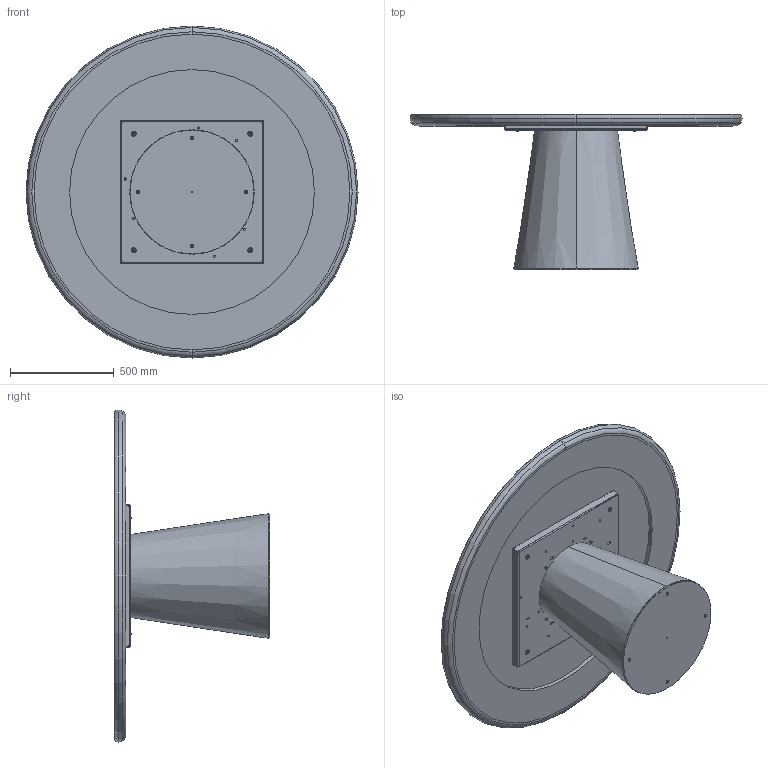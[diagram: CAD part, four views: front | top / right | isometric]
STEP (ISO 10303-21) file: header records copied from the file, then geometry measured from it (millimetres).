
FILE_DESCRIPTION (( 'STEP AP203' ), '1' );
FILE_NAME ('TO08K_Teo_d.160_King.STEP', '2024-08-02T09:21:07', ( '' ), ( '' ), 'SwSTEP 2.0', 'SolidWorks 2022', '' );
FILE_SCHEMA (( 'CONFIG_CONTROL_DESIGN' ));
Length unit declared in the file: millimetre
Products named in the file (14): M8xXXmm_hex_M8X20mm; COLLO TELAIO UNIVERSALE TTAV0801 CON FERRAMENTA_MTG TOP LEGNO-MARMO-KING; BASE TED LEGNO CON ZAVORRA; TTAV0801-02-TELAIO UNIVERSALE TONDO; M8xXXmm_M8x55mm; TTAV0801-02-TELAIO UNIVERSALE TONDO-VASSOIO; ASSIEME PIANO KING_PIANO+CERAMICA DIAM160; rondella M8_8X24; TO08K_Teo_d.160_King; TEO000000PIA-00-TEO PIASTRA DI BASE IN METALLO GREZZO; TEO0000-00-TEO BASE LEGNO IMPIALLACCIATA LEVIGATO PRONTA X VERNICE; TTAV0801 TELAIO UNIVERSALE TONDO-PIASTRINA; W91-01-PIANO KING BORDO Ø160 SAGOMATO LACCATO; K91-00-PIANO SOLO CERAMICA D.156.7cm X PIANO C BORDO
Assembly tree (25 placements, depth 4):
  TO08K_Teo_d.160_King
    BASE TED LEGNO CON ZAVORRA
      TEO000000PIA-00-TEO PIASTRA DI BASE IN METALLO GREZZO
      TEO0000-00-TEO BASE LEGNO IMPIALLACCIATA LEVIGATO PRONTA X VERNICE
      M8xXXmm_hex_M8X20mm  x4
    COLLO TELAIO UNIVERSALE TTAV0801 CON FERRAMENTA_MTG TOP LEGNO-MARMO-KING
      TTAV0801-02-TELAIO UNIVERSALE TONDO
        TTAV0801-02-TELAIO UNIVERSALE TONDO-VASSOIO
        TTAV0801 TELAIO UNIVERSALE TONDO-PIASTRINA  x4
      rondella M8_8X24  x4
      M8xXXmm_M8x55mm  x4
    ASSIEME PIANO KING_PIANO+CERAMICA DIAM160
      W91-01-PIANO KING BORDO Ø160 SAGOMATO LACCATO
      K91-00-PIANO SOLO CERAMICA D.156.7cm X PIANO C BORDO
Bounding box: 1600 x 749.19 x 1600 mm (x, y, z)
Volume: 118496491.4 mm3; surface area: 12621926.2 mm2
Topology: 21 solids, 21 shells, 822 faces, 2044 edges, 1256 vertices
Faces by surface type: plane 374, cylinder 294, cone 88, torus 66
Entity records: 16248 total; most frequent: DIRECTION 2636, CARTESIAN_POINT 2517, ORIENTED_EDGE 2390, EDGE_CURVE 1195, AXIS2_PLACEMENT_3D 966, VERTEX_POINT 761, LINE 704, VECTOR 704
